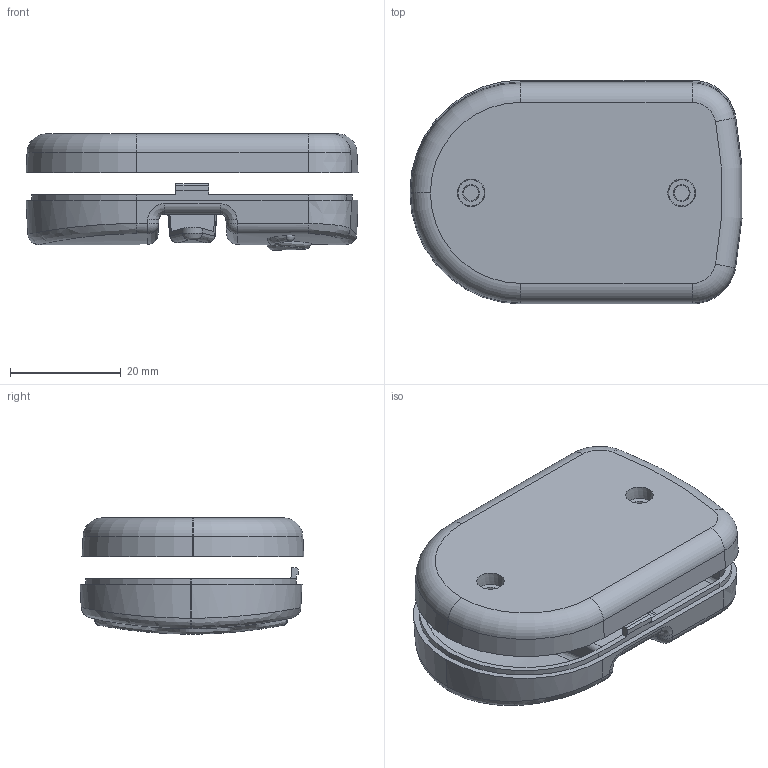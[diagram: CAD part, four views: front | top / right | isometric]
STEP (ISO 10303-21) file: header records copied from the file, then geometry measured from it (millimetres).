
FILE_DESCRIPTION(/* description */ (''),/* implementation_level */ '2;1');
FILE_NAME(/* name */ 'CP04_ZP.stp',/* time_stamp */ '2019-05-07T12:08:14+08:00',/* author */ (''),/* organization */ (''),/* preprocessor_version */ 'ST-DEVELOPER v16',/* originating_system */ 'SIEMENS PLM Software NX 10.0',/* authorisation */ '');
FILE_SCHEMA (('AUTOMOTIVE_DESIGN { 1 0 10303 214 3 1 1 1 }'));
Length unit declared in the file: millimetre
Products named in the file (1): CP04_ZP
Bounding box: 59.9 x 40.39 x 20.98 mm (x, y, z)
Volume: 12031.8 mm3; surface area: 13173.8 mm2
Topology: 2 solids, 2 shells, 201 faces, 476 edges, 284 vertices
Faces by surface type: plane 60, cylinder 58, bspline 35, cone 28, torus 10, sphere 10
Entity records: 9967 total; most frequent: CARTESIAN_POINT 4159, ORIENTED_EDGE 944, DIRECTION 848, EDGE_CURVE 472, AXIS2_PLACEMENT_3D 308, VERTEX_POINT 284, LINE 232, VECTOR 232
